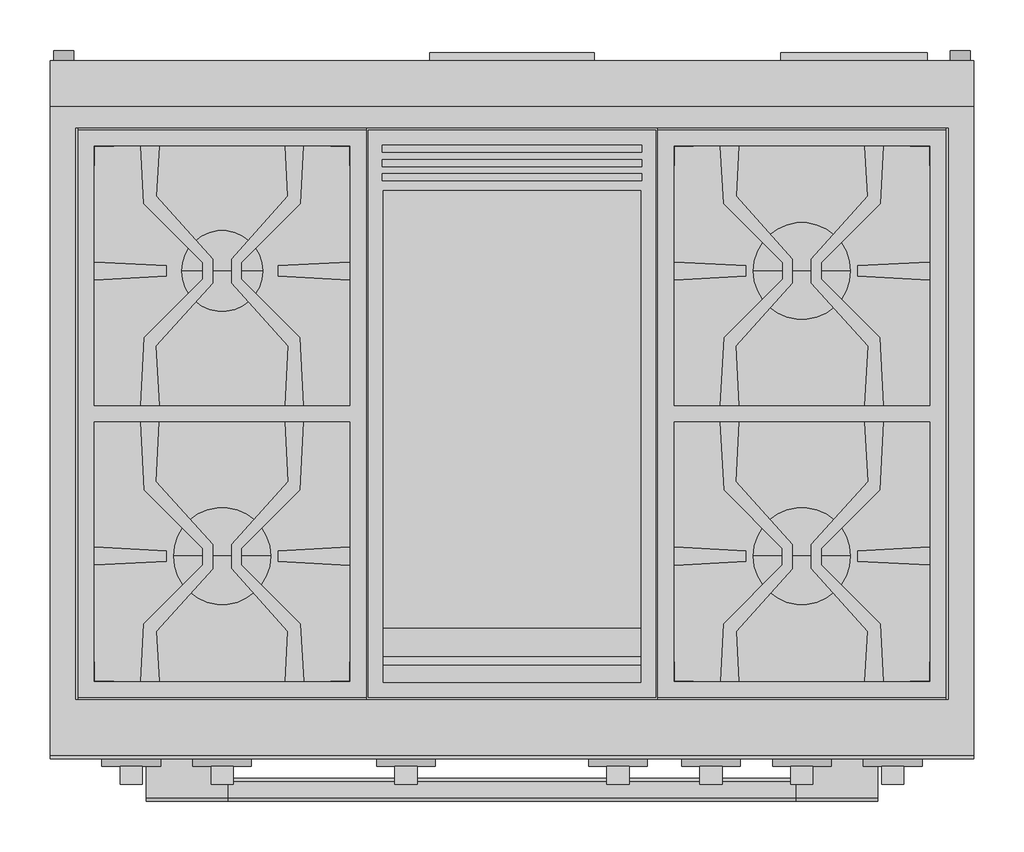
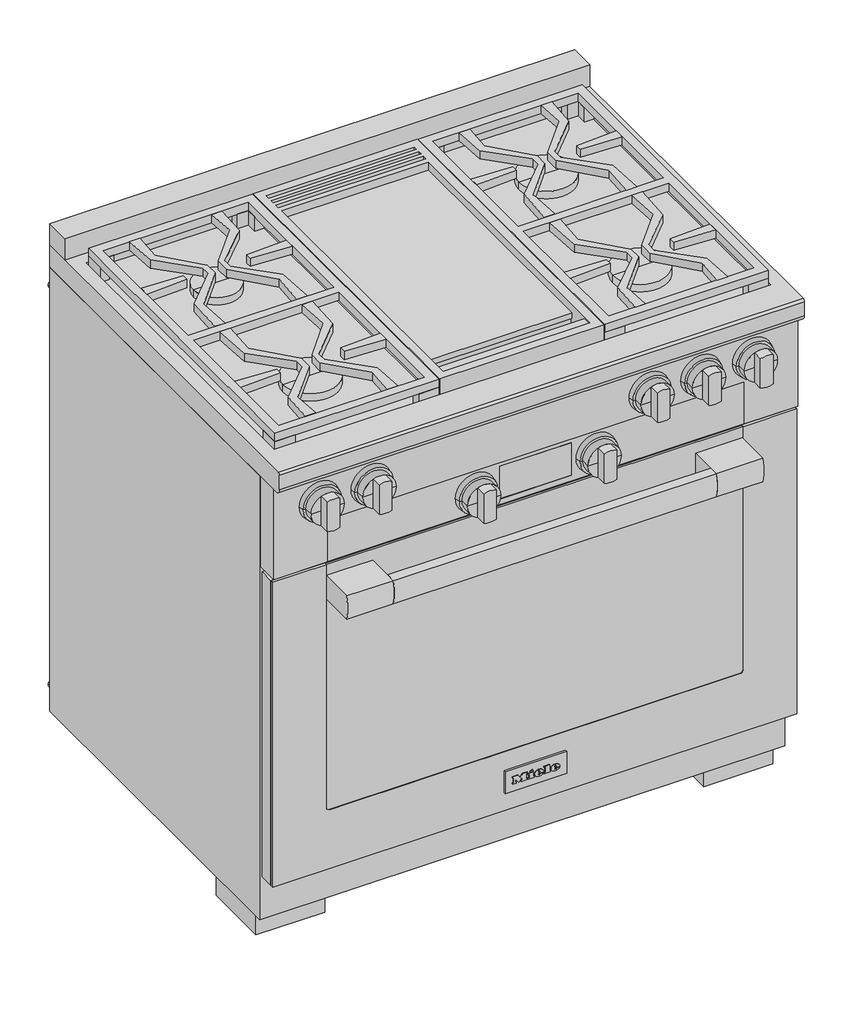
# Not in any storey: 1 proxy.
"""IFC4 building model written with IfcOpenShell, lengths in millimetres."""

from ifc_helpers import new_model, si_unit, origin, place, context, project, spatial, transform, mapped, element, save
from components import specialty_equipment_065de27d, specialty_equipment_e78757b0

model = new_model("IFC4")

# Units and contexts
model_context = context("Model", 3, world=origin())
ifc_project = project(units=[si_unit("LENGTHUNIT", "METRE", prefix="MILLI")], contexts=[model_context])

# Site, building
site = spatial("IfcSite", under=ifc_project)
building = spatial("IfcBuilding", under=site)

# Proxy
placement = place(None, origin())
specialty_equipment_shape = specialty_equipment_065de27d(model_context)
specialty_equipment_2_shape = specialty_equipment_e78757b0(model_context)
element("IfcBuildingElementProxy", 1, Name="11816590_BR_HR1136-3LP_EDST-CLS : 25113682_BR_11816590_HR1136-3LP_EDST-CLS", ObjectType="11816590_BR_HR1136-3LP_EDST-CLS : 25113682_BR_11816590_HR1136-3LP_EDST-CLS", at=placement, inside=building, context=model_context, shape_type="MappedRepresentation", body=[
    mapped(specialty_equipment_shape, transform((0.0, 0.0, 0.0), x_axis=(1.0, 0.0, 0.0), y_axis=(0.0, 1.0, 0.0), z_axis=(0.0, 0.0, 1.0))),
    mapped(specialty_equipment_2_shape, transform((0.0, 0.0, 0.0), x_axis=(1.0, 0.0, 0.0), y_axis=(0.0, 1.0, 0.0), z_axis=(0.0, 0.0, 1.0))),
])

save(model, "model.ifc")
